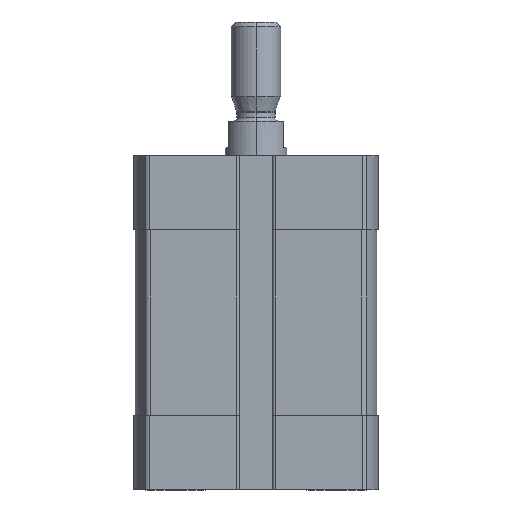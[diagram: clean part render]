
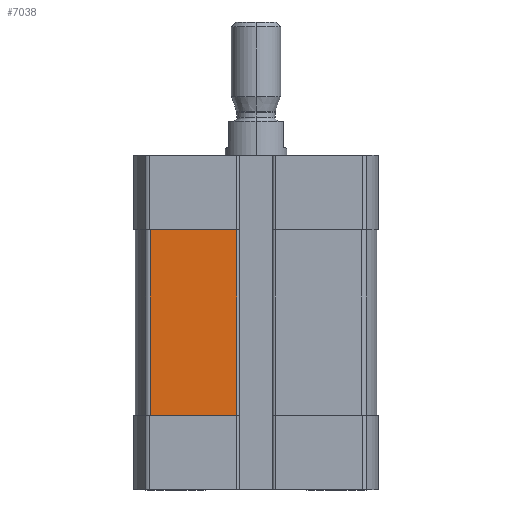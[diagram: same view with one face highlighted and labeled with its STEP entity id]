
A CAD part, left-side view. The second image highlights one B-rep face of the part: STEP entity #7038.
In plain terms, the highlighted planar face has unit normal (-1, 0, 0).
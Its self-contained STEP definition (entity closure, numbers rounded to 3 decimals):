
#441 = EDGE_CURVE ( 'NONE', #8937, #4598, #13185, .T. ) ;
#967 = EDGE_CURVE ( 'NONE', #5063, #9055, #3291, .T. ) ;
#1444 = LINE ( 'NONE', #5948, #9329 ) ;
#2441 = FACE_OUTER_BOUND ( 'NONE', #2720, .T. ) ;
#2637 = ORIENTED_EDGE ( 'NONE', *, *, #12726, .T. ) ;
#2720 = EDGE_LOOP ( 'NONE', ( #2637, #10848, #10690, #4770 ) ) ;
#2737 = PLANE ( 'NONE',  #7625 ) ;
#3039 = DIRECTION ( 'NONE',  ( 0., 1., 0. ) ) ;
#3223 = VECTOR ( 'NONE', #3039, 1000. ) ;
#3241 = CARTESIAN_POINT ( 'NONE',  ( -19.5, 3.1, -12. ) ) ;
#3291 = LINE ( 'NONE', #4056, #13168 ) ;
#4056 = CARTESIAN_POINT ( 'NONE',  ( -19.5, 3.1, -42. ) ) ;
#4598 = VERTEX_POINT ( 'NONE', #9746 ) ;
#4761 = VECTOR ( 'NONE', #8559, 1000. ) ;
#4770 = ORIENTED_EDGE ( 'NONE', *, *, #441, .T. ) ;
#5063 = VERTEX_POINT ( 'NONE', #12617 ) ;
#5882 = DIRECTION ( 'NONE',  ( -1., 0., 0. ) ) ;
#5948 = CARTESIAN_POINT ( 'NONE',  ( -19.5, 17.091, -42. ) ) ;
#6107 = CARTESIAN_POINT ( 'NONE',  ( -19.5, 0., -12. ) ) ;
#6876 = CARTESIAN_POINT ( 'NONE',  ( -19.5, 17.091, -42. ) ) ;
#7038 = ADVANCED_FACE ( 'NONE', ( #2441 ), #2737, .T. ) ;
#7625 = AXIS2_PLACEMENT_3D ( 'NONE', #6876, #5882, #12948 ) ;
#8448 = EDGE_CURVE ( 'NONE', #9055, #8937, #9040, .T. ) ;
#8559 = DIRECTION ( 'NONE',  ( 0., 0., -1. ) ) ;
#8900 = DIRECTION ( 'NONE',  ( 0., 0., 1. ) ) ;
#8937 = VERTEX_POINT ( 'NONE', #11043 ) ;
#9040 = LINE ( 'NONE', #6107, #3223 ) ;
#9055 = VERTEX_POINT ( 'NONE', #3241 ) ;
#9329 = VECTOR ( 'NONE', #11973, 1000. ) ;
#9746 = CARTESIAN_POINT ( 'NONE',  ( -19.5, 17.091, -42. ) ) ;
#10575 = CARTESIAN_POINT ( 'NONE',  ( -19.5, 17.091, -42. ) ) ;
#10690 = ORIENTED_EDGE ( 'NONE', *, *, #8448, .T. ) ;
#10848 = ORIENTED_EDGE ( 'NONE', *, *, #967, .T. ) ;
#11043 = CARTESIAN_POINT ( 'NONE',  ( -19.5, 17.091, -12. ) ) ;
#11973 = DIRECTION ( 'NONE',  ( 0., -1., 0. ) ) ;
#12617 = CARTESIAN_POINT ( 'NONE',  ( -19.5, 3.1, -42. ) ) ;
#12726 = EDGE_CURVE ( 'NONE', #4598, #5063, #1444, .T. ) ;
#12948 = DIRECTION ( 'NONE',  ( 0., 0., 1. ) ) ;
#13168 = VECTOR ( 'NONE', #8900, 1000. ) ;
#13185 = LINE ( 'NONE', #10575, #4761 ) ;
